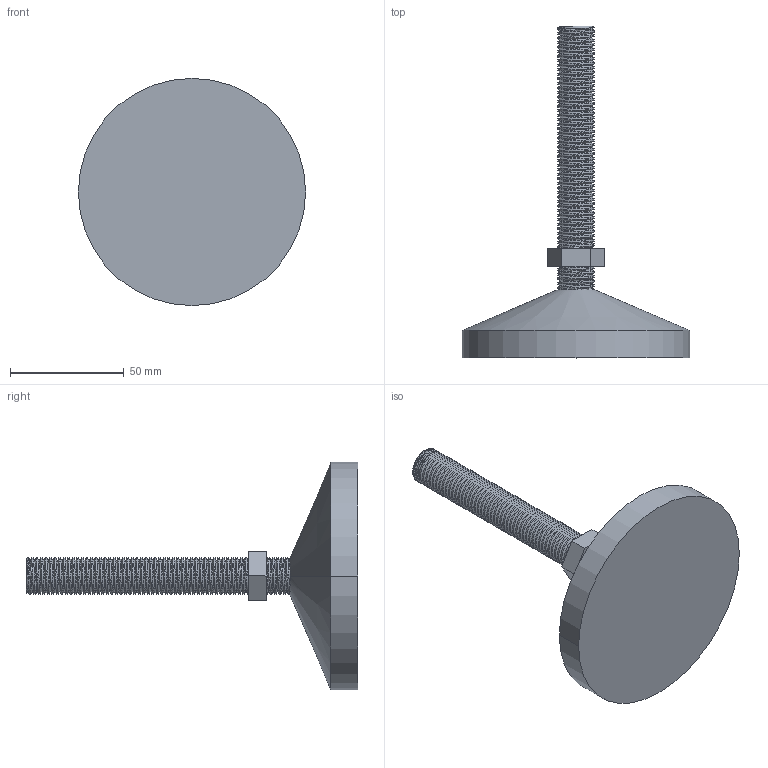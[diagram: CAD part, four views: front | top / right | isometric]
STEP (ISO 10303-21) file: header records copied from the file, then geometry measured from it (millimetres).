
FILE_DESCRIPTION (( 'STEP AP203' ), '1' );
FILE_NAME ('225-CE-DAF-16.STEP', '2015-07-09T09:31:23', ( '' ), ( '' ), 'SwSTEP 2.0', 'SolidWorks 2013', '' );
FILE_SCHEMA (( 'CONFIG_CONTROL_DESIGN' ));
Length unit declared in the file: millimetre
Products named in the file (1): 225-CE-DAF-16
Bounding box: 100 x 146 x 100 mm (x, y, z)
Volume: 172818.4 mm3; surface area: 30717.5 mm2
Topology: 1 solids, 1 shells, 134 faces, 392 edges, 260 vertices
Faces by surface type: cylinder 113, plane 11, torus 4, bspline 4, cone 2
Entity records: 12531 total; most frequent: CARTESIAN_POINT 9600, ORIENTED_EDGE 784, DIRECTION 429, EDGE_CURVE 392, VERTEX_POINT 260, AXIS2_PLACEMENT_3D 149, EDGE_LOOP 136, ADVANCED_FACE 134
